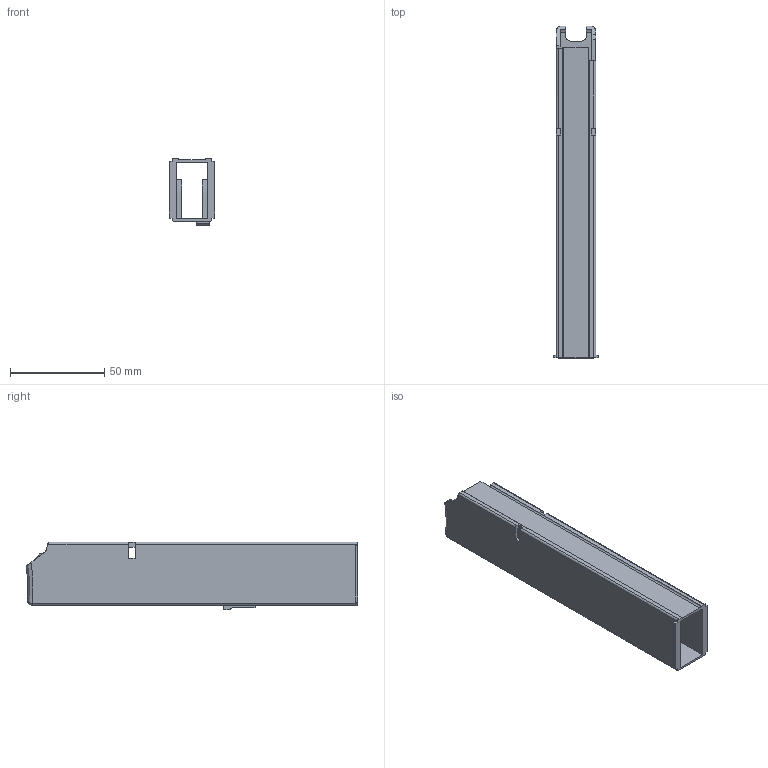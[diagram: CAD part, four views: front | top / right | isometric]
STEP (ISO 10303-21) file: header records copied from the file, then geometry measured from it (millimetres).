
FILE_DESCRIPTION(/* description */ (''),/* implementation_level */ '2;1');
FILE_NAME(/* name */ 'mag_body.step',/* time_stamp */ '2022-11-04T20:04:43-04:00',/* author */ (''),/* organization */ (''),/* preprocessor_version */ 'ST-DEVELOPER v19.2',/* originating_system */ 'Autodesk Translation Framework v11.17.0.187',/* authorisation */ '');
FILE_SCHEMA (('AUTOMOTIVE_DESIGN { 1 0 10303 214 3 1 1 }'));
Length unit declared in the file: millimetre
Products named in the file (1): mag_body
Bounding box: 24 x 176.36 x 35.9 mm (x, y, z)
Volume: 31086.8 mm3; surface area: 35306.4 mm2
Topology: 1 solids, 1 shells, 72 faces, 221 edges, 146 vertices
Faces by surface type: plane 47, cylinder 15, bspline 8, torus 2
Entity records: 3863 total; most frequent: CARTESIAN_POINT 1874, ORIENTED_EDGE 442, DIRECTION 365, EDGE_CURVE 221, LINE 163, VECTOR 163, VERTEX_POINT 146, AXIS2_PLACEMENT_3D 101
